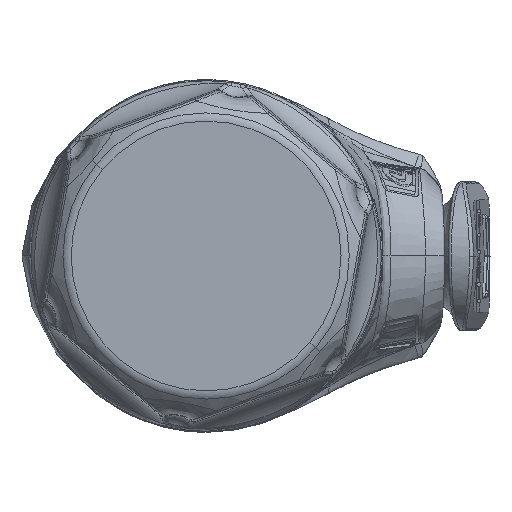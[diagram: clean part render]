
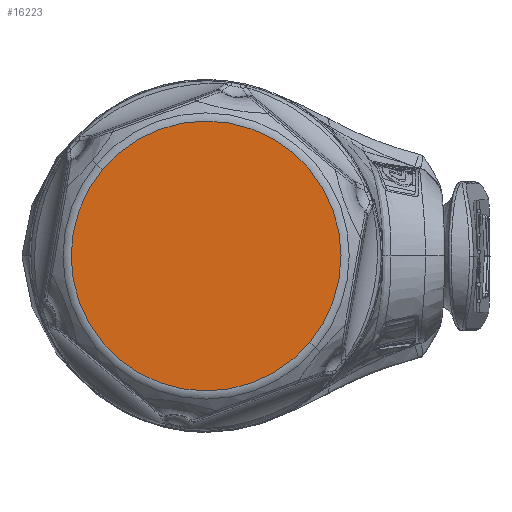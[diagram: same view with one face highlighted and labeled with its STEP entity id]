
A CAD part, left-side view. The second image highlights one B-rep face of the part: STEP entity #16223.
In plain terms, the highlighted planar face has unit normal (-1, 0, 0).
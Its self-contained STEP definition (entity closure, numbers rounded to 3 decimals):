
#5877 = DIRECTION ( 'NONE',  ( 0., 0., -1. ) ) ;
#12504 = DIRECTION ( 'NONE',  ( 0., -0.767, -0.642 ) ) ;
#16223 = ADVANCED_FACE ( 'NONE', ( #88825 ), #81469, .F. ) ;
#19131 = AXIS2_PLACEMENT_3D ( 'NONE', #38760, #40219, #48077 ) ;
#36981 = VERTEX_POINT ( 'NONE', #41878 ) ;
#38760 = CARTESIAN_POINT ( 'NONE',  ( -59.321, 0., 0. ) ) ;
#40219 = DIRECTION ( 'NONE',  ( -1., 0., 0. ) ) ;
#41396 = VERTEX_POINT ( 'NONE', #69889 ) ;
#41527 = ORIENTED_EDGE ( 'NONE', *, *, #43494, .T. ) ;
#41878 = CARTESIAN_POINT ( 'NONE',  ( -59.321, -8.451, -7.067 ) ) ;
#43494 = EDGE_CURVE ( 'NONE', #36981, #41396, #58677, .T. ) ;
#48077 = DIRECTION ( 'NONE',  ( 0., -0.767, -0.642 ) ) ;
#49294 = EDGE_LOOP ( 'NONE', ( #41527, #67796 ) ) ;
#56251 = CARTESIAN_POINT ( 'NONE',  ( -59.321, 0., 0. ) ) ;
#58677 = CIRCLE ( 'NONE', #71236, 11.016 ) ;
#63638 = DIRECTION ( 'NONE',  ( -1., 0., 0. ) ) ;
#67796 = ORIENTED_EDGE ( 'NONE', *, *, #96837, .T. ) ;
#69889 = CARTESIAN_POINT ( 'NONE',  ( -59.321, 8.451, 7.067 ) ) ;
#71032 = AXIS2_PLACEMENT_3D ( 'NONE', #87383, #80996, #5877 ) ;
#71236 = AXIS2_PLACEMENT_3D ( 'NONE', #56251, #63638, #12504 ) ;
#75527 = CIRCLE ( 'NONE', #19131, 11.016 ) ;
#80996 = DIRECTION ( 'NONE',  ( 1., 0., 0. ) ) ;
#81469 = PLANE ( 'NONE',  #71032 ) ;
#87383 = CARTESIAN_POINT ( 'NONE',  ( -59.321, -11., 0. ) ) ;
#88825 = FACE_OUTER_BOUND ( 'NONE', #49294, .T. ) ;
#96837 = EDGE_CURVE ( 'NONE', #41396, #36981, #75527, .T. ) ;
